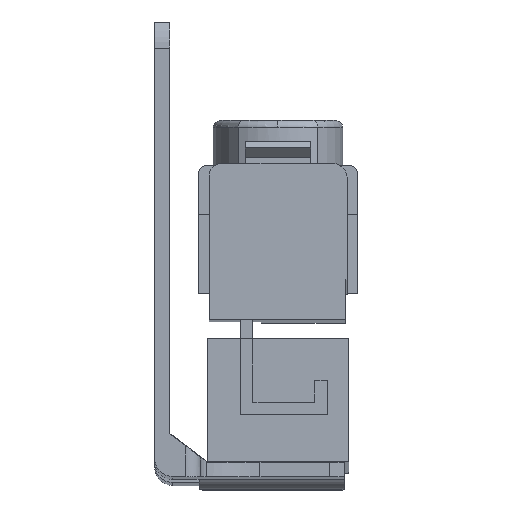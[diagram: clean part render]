
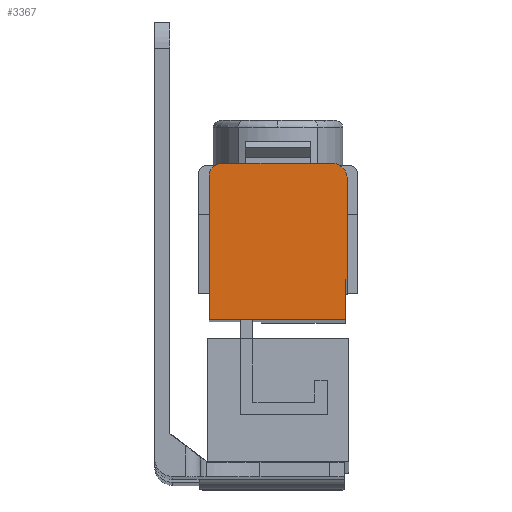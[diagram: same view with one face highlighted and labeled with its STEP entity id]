
A CAD part, front view. The second image highlights one B-rep face of the part: STEP entity #3367.
In plain terms, the highlighted planar face has unit normal (0, -1, 0.007).
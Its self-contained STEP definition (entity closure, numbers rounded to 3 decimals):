
#298 = VERTEX_POINT ( 'NONE', #626 ) ;
#303 = VERTEX_POINT ( 'NONE', #631 ) ;
#315 = VERTEX_POINT ( 'NONE', #643 ) ;
#317 = VERTEX_POINT ( 'NONE', #645 ) ;
#319 = VERTEX_POINT ( 'NONE', #647 ) ;
#321 = VERTEX_POINT ( 'NONE', #649 ) ;
#323 = VERTEX_POINT ( 'NONE', #651 ) ;
#324 = VERTEX_POINT ( 'NONE', #652 ) ;
#626 = CARTESIAN_POINT ( 'NONE',  ( 26.5, -24.744, -20.531 ) ) ;
#631 = CARTESIAN_POINT ( 'NONE',  ( 24.45, -24.632, -4.532 ) ) ;
#643 = CARTESIAN_POINT ( 'NONE',  ( 9.25, -24.632, -4.532 ) ) ;
#645 = CARTESIAN_POINT ( 'NONE',  ( 7.5, -24.782, -26.031 ) ) ;
#647 = CARTESIAN_POINT ( 'NONE',  ( 26.25, -24.782, -26.031 ) ) ;
#649 = CARTESIAN_POINT ( 'NONE',  ( 26.5, -24.646, -6.582 ) ) ;
#651 = CARTESIAN_POINT ( 'NONE',  ( 7.5, -24.644, -6.282 ) ) ;
#652 = CARTESIAN_POINT ( 'NONE',  ( 26.25, -24.744, -20.531 ) ) ;
#1352 = FACE_OUTER_BOUND ( 'NONE', #2528, .T. ) ;
#1424 = PLANE ( 'NONE',  #5234 ) ;
#1425 = CARTESIAN_POINT ( 'NONE',  ( 9.25, -24.644, -6.282 ) ) ;
#1426 = DIRECTION ( 'NONE',  ( 0., -1., 0.007 ) ) ;
#1427 = DIRECTION ( 'NONE',  ( 0., -0.007, -1. ) ) ;
#2077 = LINE ( 'NONE', #4186, #2078 ) ;
#2078 = VECTOR ( 'NONE', #4187, 1000. ) ;
#2087 = LINE ( 'NONE', #4196, #2088 ) ;
#2088 = VECTOR ( 'NONE', #4197, 1000. ) ;
#2092 = CIRCLE ( 'NONE', #5420, 2.05 ) ;
#2095 = CIRCLE ( 'NONE', #5421, 1.75 ) ;
#2101 = LINE ( 'NONE', #4214, #2102 ) ;
#2102 = VECTOR ( 'NONE', #4215, 1000. ) ;
#2103 = LINE ( 'NONE', #4216, #2104 ) ;
#2104 = VECTOR ( 'NONE', #4217, 1000. ) ;
#2109 = LINE ( 'NONE', #4222, #2110 ) ;
#2110 = VECTOR ( 'NONE', #4223, 1000. ) ;
#2111 = LINE ( 'NONE', #4224, #2112 ) ;
#2112 = VECTOR ( 'NONE', #4225, 1000. ) ;
#2528 = EDGE_LOOP ( 'NONE', ( #2815, #2812, #2809, #2808, #2807, #2806, #2805, #2804 ) ) ;
#2804 = ORIENTED_EDGE ( 'NONE', *, *, #4987, .T. ) ;
#2805 = ORIENTED_EDGE ( 'NONE', *, *, #4991, .T. ) ;
#2806 = ORIENTED_EDGE ( 'NONE', *, *, #4990, .T. ) ;
#2807 = ORIENTED_EDGE ( 'NONE', *, *, #4986, .T. ) ;
#2808 = ORIENTED_EDGE ( 'NONE', *, *, #4982, .T. ) ;
#2809 = ORIENTED_EDGE ( 'NONE', *, *, #4973, .T. ) ;
#2812 = ORIENTED_EDGE ( 'NONE', *, *, #4980, .T. ) ;
#2815 = ORIENTED_EDGE ( 'NONE', *, *, #4978, .T. ) ;
#3367 = ADVANCED_FACE ( 'NONE', ( #1352 ), #1424, .T. ) ;
#4186 = CARTESIAN_POINT ( 'NONE',  ( 9.25, -24.632, -4.532 ) ) ;
#4187 = DIRECTION ( 'NONE',  ( -1., 0., 0. ) ) ;
#4196 = CARTESIAN_POINT ( 'NONE',  ( 26.5, -24.646, -6.582 ) ) ;
#4197 = DIRECTION ( 'NONE',  ( 0., 0.007, 1. ) ) ;
#4200 = CARTESIAN_POINT ( 'NONE',  ( 24.45, -24.646, -6.582 ) ) ;
#4201 = DIRECTION ( 'NONE',  ( 0., -1., 0.007 ) ) ;
#4202 = DIRECTION ( 'NONE',  ( 0., 0.007, 1. ) ) ;
#4205 = CARTESIAN_POINT ( 'NONE',  ( 9.25, -24.644, -6.282 ) ) ;
#4206 = DIRECTION ( 'NONE',  ( 0., -1., 0.007 ) ) ;
#4207 = DIRECTION ( 'NONE',  ( 0., -0.007, -1. ) ) ;
#4214 = CARTESIAN_POINT ( 'NONE',  ( 7.5, -24.644, -6.282 ) ) ;
#4215 = DIRECTION ( 'NONE',  ( 0., -0.007, -1. ) ) ;
#4216 = CARTESIAN_POINT ( 'NONE',  ( 7.5, -24.744, -20.531 ) ) ;
#4217 = DIRECTION ( 'NONE',  ( 1., 0., 0. ) ) ;
#4222 = CARTESIAN_POINT ( 'NONE',  ( 26.25, -24.782, -26.031 ) ) ;
#4223 = DIRECTION ( 'NONE',  ( 1., 0., 0. ) ) ;
#4224 = CARTESIAN_POINT ( 'NONE',  ( 26.25, -24.782, -26.031 ) ) ;
#4225 = DIRECTION ( 'NONE',  ( 0., 0.007, 1. ) ) ;
#4973 = EDGE_CURVE ( 'NONE', #303, #315, #2077, .T. ) ;
#4978 = EDGE_CURVE ( 'NONE', #298, #321, #2087, .T. ) ;
#4980 = EDGE_CURVE ( 'NONE', #321, #303, #2092, .T. ) ;
#4982 = EDGE_CURVE ( 'NONE', #315, #323, #2095, .T. ) ;
#4986 = EDGE_CURVE ( 'NONE', #323, #317, #2101, .T. ) ;
#4987 = EDGE_CURVE ( 'NONE', #324, #298, #2103, .T. ) ;
#4990 = EDGE_CURVE ( 'NONE', #317, #319, #2109, .T. ) ;
#4991 = EDGE_CURVE ( 'NONE', #319, #324, #2111, .T. ) ;
#5234 = AXIS2_PLACEMENT_3D ( 'NONE', #1425, #1426, #1427 ) ;
#5420 = AXIS2_PLACEMENT_3D ( 'NONE', #4200, #4201, #4202 ) ;
#5421 = AXIS2_PLACEMENT_3D ( 'NONE', #4205, #4206, #4207 ) ;
